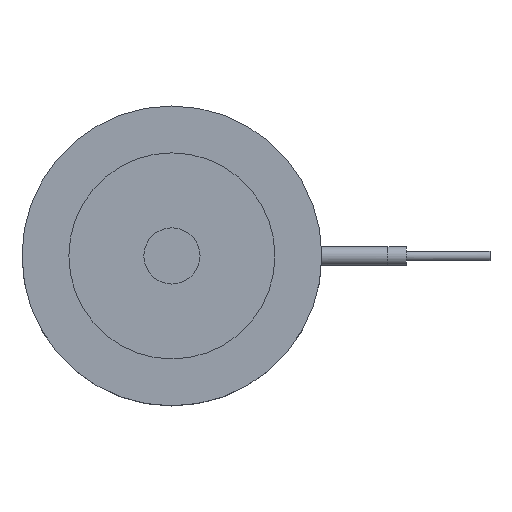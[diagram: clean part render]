
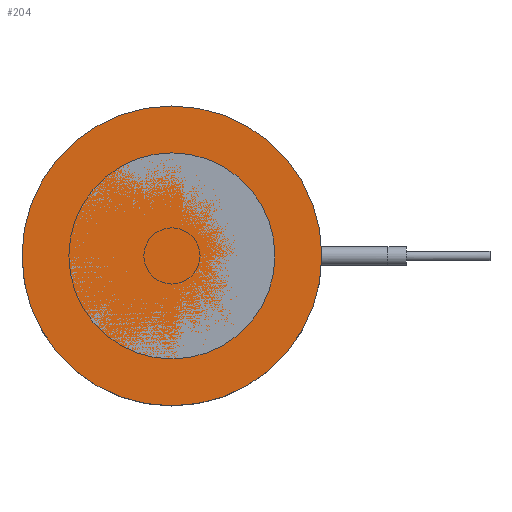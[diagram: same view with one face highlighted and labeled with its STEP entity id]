
A CAD part, top view. The second image highlights one B-rep face of the part: STEP entity #204.
In plain terms, the highlighted planar face has unit normal (0, 0, 1).
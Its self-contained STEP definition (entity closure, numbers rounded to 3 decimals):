
#141=PLANE('',#1163);
#204=ADVANCED_FACE('',(#281),#141,.F.);
#281=FACE_OUTER_BOUND('',#575,.T.);
#412=CIRCLE('',#1162,16.);
#575=EDGE_LOOP('',(#805));
#805=ORIENTED_EDGE('',*,*,#1018,.F.);
#903=VERTEX_POINT('',#2072);
#1018=EDGE_CURVE('',#903,#903,#412,.T.);
#1162=AXIS2_PLACEMENT_3D('',#2071,#1455,#1456);
#1163=AXIS2_PLACEMENT_3D('',#2073,#1457,#1458);
#1455=DIRECTION('',(0.,0.,-1.));
#1456=DIRECTION('',(-1.,0.,0.));
#1457=DIRECTION('',(0.,0.,-1.));
#1458=DIRECTION('',(-1.,0.,0.));
#2071=CARTESIAN_POINT('',(0.,0.,0.));
#2072=CARTESIAN_POINT('',(-16.,0.,0.));
#2073=CARTESIAN_POINT('',(0.,0.,0.));
